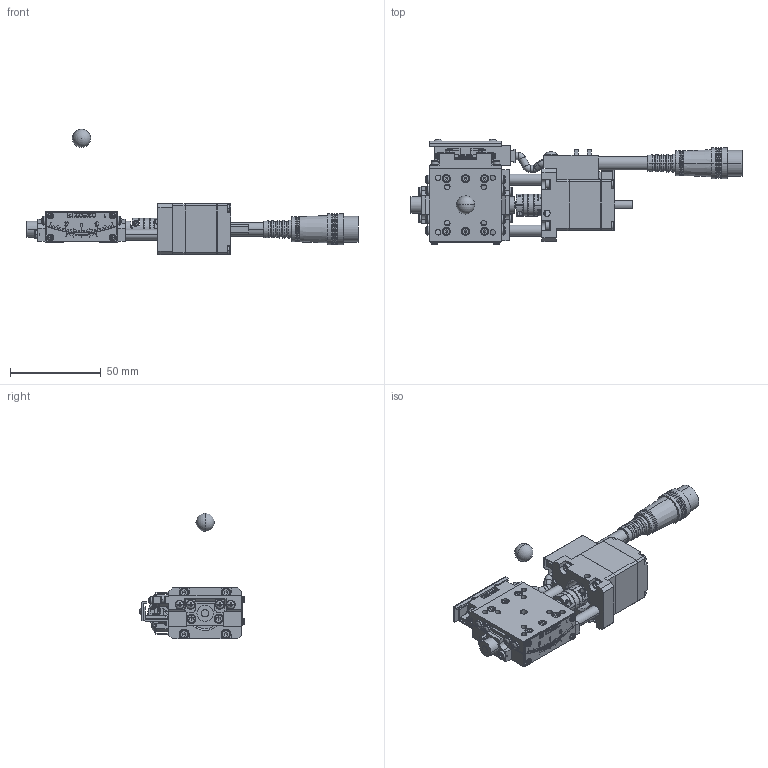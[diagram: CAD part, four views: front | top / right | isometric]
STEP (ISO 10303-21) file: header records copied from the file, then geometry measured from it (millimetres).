
FILE_DESCRIPTION (( 'STEP AP203' ), '1' );
FILE_NAME ('SA04B-RT02.STEP', '2019-02-20T06:38:50', ( '' ), ( '' ), 'SwSTEP 2.0', 'SolidWorks 2018', '' );
FILE_SCHEMA (( 'CONFIG_CONTROL_DESIGN' ));
Length unit declared in the file: millimetre
Products named in the file (7): base-Part-2; SA04B-RT02; base-Part-1; base; rotation center; base-Part-3; table
Assembly tree (6 placements, depth 3):
  SA04B-RT02
    base
      base-Part-1
      base-Part-2
      base-Part-3
    rotation center
    table
Bounding box: 182.5 x 57.96 x 69 mm (x, y, z)
Volume: 75477.9 mm3; surface area: 37503.2 mm2
Topology: 7 solids, 7 shells, 2532 faces, 6437 edges, 4032 vertices
Faces by surface type: plane 1607, cylinder 579, cone 230, torus 64, sphere 46, bspline 6
Entity records: 79164 total; most frequent: CARTESIAN_POINT 16269, DIRECTION 13337, ORIENTED_EDGE 12720, EDGE_CURVE 6360, AXIS2_PLACEMENT_3D 4627, LINE 4083, VECTOR 4083, VERTEX_POINT 4021
